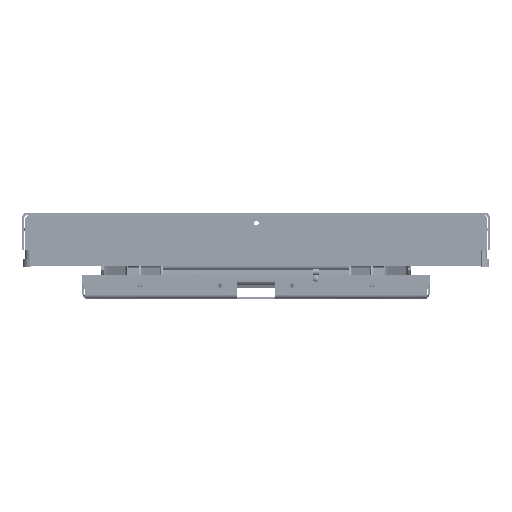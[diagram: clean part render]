
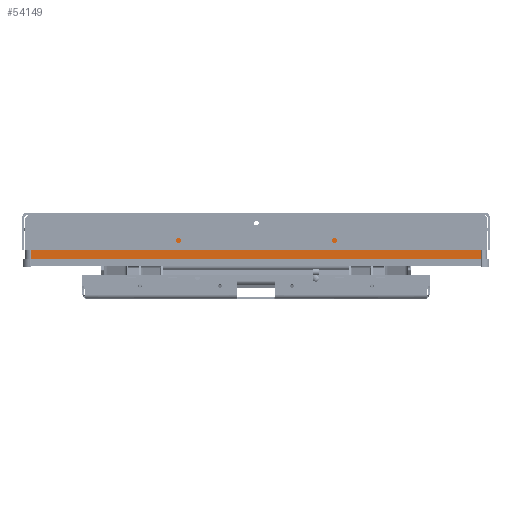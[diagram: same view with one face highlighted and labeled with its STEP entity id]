
A CAD part, front view. The second image highlights one B-rep face of the part: STEP entity #54149.
In plain terms, the highlighted planar face has unit normal (0, -1, 0) as drawn and (1, 0, 0) by its records, which use the part's own axes.
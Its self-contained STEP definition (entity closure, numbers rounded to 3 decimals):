
#3276=PLANE('',#58951);
#5221=FACE_OUTER_BOUND('',#8684,.T.);
#8684=EDGE_LOOP('',(#41682,#41683,#41684,#41685));
#12825=LINE('',#85451,#17564);
#12827=LINE('',#85455,#17566);
#12828=LINE('',#85457,#17567);
#12829=LINE('',#85458,#17568);
#17564=VECTOR('',#68500,10.);
#17566=VECTOR('',#68504,10.);
#17567=VECTOR('',#68505,10.);
#17568=VECTOR('',#68506,10.);
#24999=VERTEX_POINT('',#85448);
#25000=VERTEX_POINT('',#85450);
#25001=VERTEX_POINT('',#85454);
#25002=VERTEX_POINT('',#85456);
#31071=EDGE_CURVE('',#25000,#24999,#12825,.T.);
#31073=EDGE_CURVE('',#24999,#25001,#12827,.T.);
#31074=EDGE_CURVE('',#25002,#25001,#12828,.T.);
#31075=EDGE_CURVE('',#25000,#25002,#12829,.T.);
#41682=ORIENTED_EDGE('',*,*,#31073,.T.);
#41683=ORIENTED_EDGE('',*,*,#31074,.F.);
#41684=ORIENTED_EDGE('',*,*,#31075,.F.);
#41685=ORIENTED_EDGE('',*,*,#31071,.T.);
#54149=ADVANCED_FACE('',(#5221),#3276,.T.);
#58951=AXIS2_PLACEMENT_3D('',#85453,#68502,#68503);
#68500=DIRECTION('',(0.,0.,1.));
#68502=DIRECTION('center_axis',(1.,0.,0.));
#68503=DIRECTION('ref_axis',(0.,0.,-1.));
#68504=DIRECTION('',(0.,-1.,0.));
#68505=DIRECTION('',(0.,0.,1.));
#68506=DIRECTION('',(0.,-1.,0.));
#85448=CARTESIAN_POINT('',(4.,36.5,1155.));
#85450=CARTESIAN_POINT('',(4.,36.5,0.));
#85451=CARTESIAN_POINT('',(4.,36.5,0.));
#85453=CARTESIAN_POINT('Origin',(4.,36.5,0.));
#85454=CARTESIAN_POINT('',(4.,-18.1,1155.));
#85455=CARTESIAN_POINT('',(4.,36.5,1155.));
#85456=CARTESIAN_POINT('',(4.,-18.1,0.));
#85457=CARTESIAN_POINT('',(4.,-18.1,0.));
#85458=CARTESIAN_POINT('',(4.,36.5,0.));
